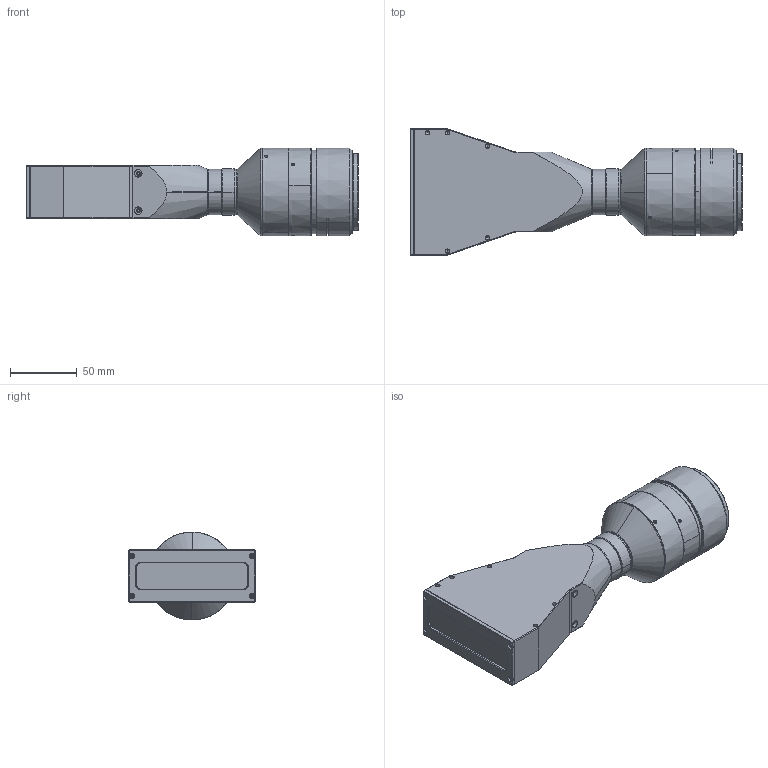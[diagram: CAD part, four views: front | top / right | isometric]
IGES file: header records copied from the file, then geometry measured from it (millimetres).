
Start section: SolidWorks IGES file using analytic representation for surfaces
Global section: file name: J:\--  --  产品 2021.8.2\DTCM（2021.1.4整体拷过来）\- 扁平镜头方案\LTCM430H-72-M58-AL\3D\LTCM430H-72-M58-AL.IGS; native system: SolidWorks 2017; preprocessor: SolidWorks 2017; author: lenovo; date: 210817.164150; units: millimetre
Bounding box: 249.54 x 95 x 65.99 mm (x, y, z)
Surface area: 64652.3 mm2 (no closed solid volume)
Topology: 0 solids, 0 shells, 350 faces, 5677 edges, 5645 vertices
Faces by surface type: revolution 220, bspline 130
